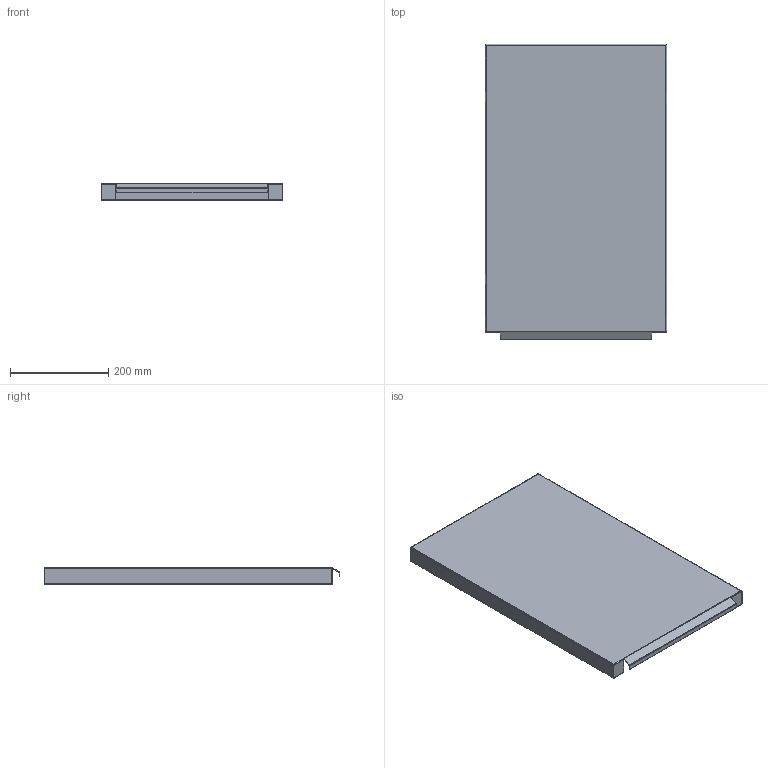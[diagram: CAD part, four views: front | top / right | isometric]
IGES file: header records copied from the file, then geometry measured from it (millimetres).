
Global section: file name: KZ-DK-db.1_MOCKUP; native system: unknown; preprocessor: unknown; author: unknown; organization: unknown; date: 20260311.161826; units: millimetre
Bounding box: 370 x 602.5 x 35 mm (x, y, z)
Volume: 291935.2 mm3; surface area: 585850 mm2
Topology: 1 solids, 1 shells, 58 faces, 144 edges, 88 vertices
Faces by surface type: bspline 58
